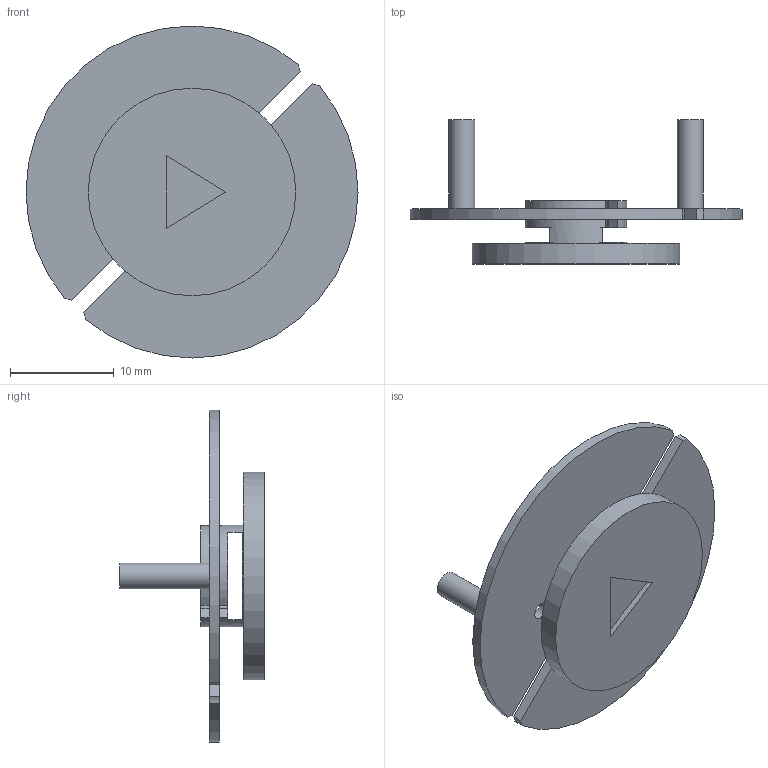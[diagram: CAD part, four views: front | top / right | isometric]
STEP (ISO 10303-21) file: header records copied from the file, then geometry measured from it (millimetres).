
FILE_DESCRIPTION(('Open CASCADE Model'),'2;1');
FILE_NAME('CAP_PLAY_CIRCULAR','2026-09-06T11:49:22',('Author'),( 'Open CASCADE'),'Open CASCADE STEP processor 7.8','build123d', 'Unknown');
FILE_SCHEMA(('AUTOMOTIVE_DESIGN { 1 0 10303 214 1 1 1 1 }'));
Length unit declared in the file: millimetre
Products named in the file (2): =>[0:1:1:2]; CAP_PLAY_CIRCULAR
Assembly tree (1 placements, depth 2):
  =>[0:1:1:2]
    CAP_PLAY_CIRCULAR
Bounding box: 32 x 13.9 x 32 mm (x, y, z)
Volume: 1455.2 mm3; surface area: 2645 mm2
Topology: 1 solids, 1 shells, 46 faces, 111 edges, 74 vertices
Faces by surface type: plane 26, cylinder 20
Full cylindrical faces by diameter (mm): 1.6 x2, 1.7 x2, 2.5 x2, 7.4 x1, 9.8 x1, 20 x1
Entity records: 2859 total; most frequent: CARTESIAN_POINT 573, DIRECTION 434, ORIENTED_EDGE 222, PCURVE 222, DEFINITIONAL_REPRESENTATION 222, LINE 209, VECTOR 209, EDGE_CURVE 111
